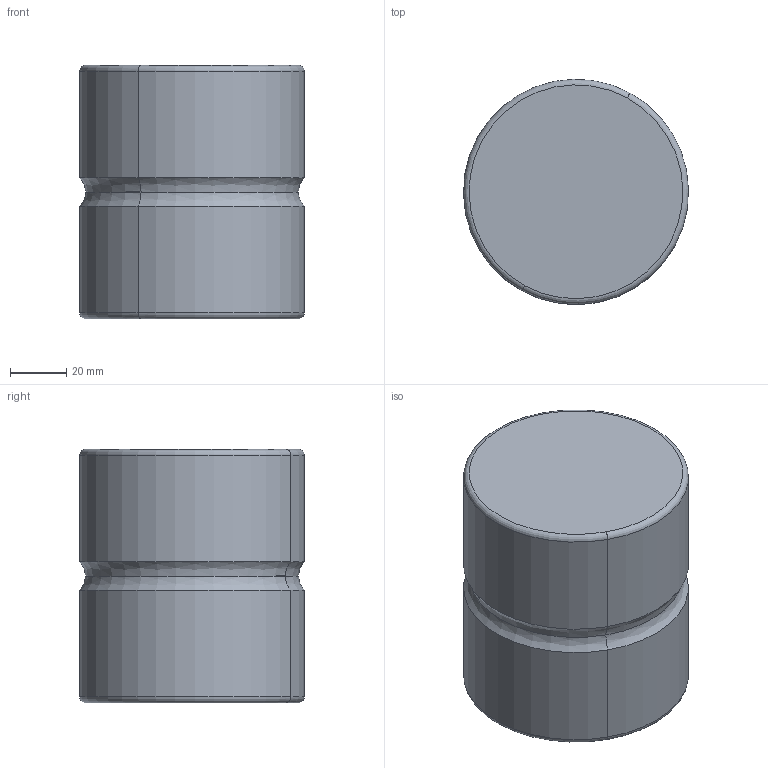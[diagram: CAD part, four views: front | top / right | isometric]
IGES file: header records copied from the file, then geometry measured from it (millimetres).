
Start section: START RECORD GO HERE.
Global section: file name: A519-80.igs; native system: DASSAULT SYSTEMES CATIA V5 R20 - www.3ds.com; preprocessor: CATIA Version 5 Release 20 ; author: Utente; organization: NB04-ASUS; date: 20211130.120912; units: millimetre
Bounding box: 79.98 x 79.98 x 90 mm (x, y, z)
Surface area: 32440.9 mm2 (no closed solid volume)
Topology: 0 solids, 0 shells, 14 faces, 52 edges, 52 vertices
Faces by surface type: revolution 12, plane 2
